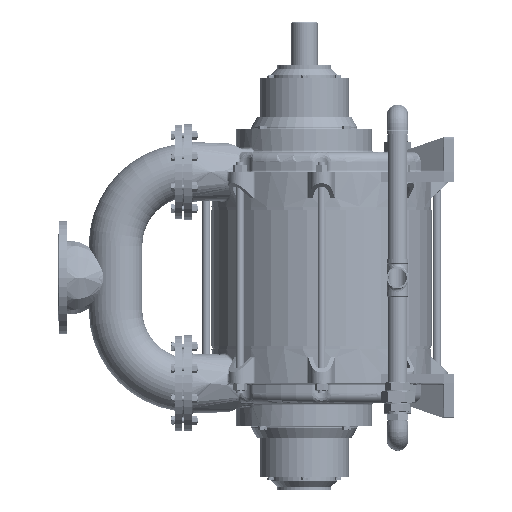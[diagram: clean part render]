
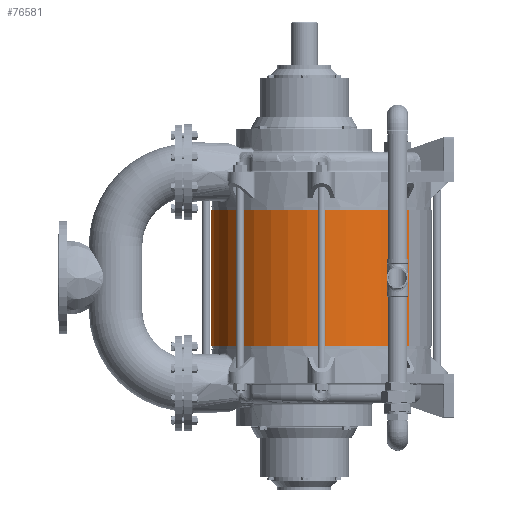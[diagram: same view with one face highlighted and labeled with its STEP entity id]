
A CAD part, left-side view. The second image highlights one B-rep face of the part: STEP entity #76581.
In plain terms, the highlighted cylindrical face has radius 334 mm (diameter 668 mm), a partial arc.
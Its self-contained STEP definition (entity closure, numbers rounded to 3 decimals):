
#12388 = CARTESIAN_POINT ( 'NONE',  ( 0., 0., -9. ) ) ;
#15015 = VERTEX_POINT ( 'NONE', #44050 ) ;
#16204 = CARTESIAN_POINT ( 'NONE',  ( -202.961, -265.26, -9. ) ) ;
#25985 = CARTESIAN_POINT ( 'NONE',  ( 0., 0., -9. ) ) ;
#30681 = AXIS2_PLACEMENT_3D ( 'NONE', #80423, #34950, #147519 ) ;
#31249 = CARTESIAN_POINT ( 'NONE',  ( 202.961, 265.26, -420.4 ) ) ;
#33611 = ORIENTED_EDGE ( 'NONE', *, *, #41996, .T. ) ;
#34950 = DIRECTION ( 'NONE',  ( 0., 0., 1. ) ) ;
#37332 = CIRCLE ( 'NONE', #30681, 334. ) ;
#40283 = VERTEX_POINT ( 'NONE', #47139 ) ;
#40666 = ORIENTED_EDGE ( 'NONE', *, *, #83902, .T. ) ;
#41996 = EDGE_CURVE ( 'NONE', #128228, #15015, #37332, .T. ) ;
#44050 = CARTESIAN_POINT ( 'NONE',  ( -202.961, -265.26, -420.4 ) ) ;
#47139 = CARTESIAN_POINT ( 'NONE',  ( 202.961, 265.26, -9. ) ) ;
#50109 = EDGE_CURVE ( 'NONE', #40283, #60297, #131245, .T. ) ;
#60297 = VERTEX_POINT ( 'NONE', #81256 ) ;
#70131 = DIRECTION ( 'NONE',  ( 0., 0., -1. ) ) ;
#71336 = DIRECTION ( 'NONE',  ( 0., 0., 1. ) ) ;
#72476 = DIRECTION ( 'NONE',  ( -0.608, -0.794, 0. ) ) ;
#72483 = AXIS2_PLACEMENT_3D ( 'NONE', #25985, #104534, #72476 ) ;
#73782 = VECTOR ( 'NONE', #70131, 1000. ) ;
#76581 = ADVANCED_FACE ( 'NONE', ( #183022 ), #152044, .T. ) ;
#76676 = VECTOR ( 'NONE', #172212, 1000. ) ;
#80423 = CARTESIAN_POINT ( 'NONE',  ( 0., 0., -420.4 ) ) ;
#81256 = CARTESIAN_POINT ( 'NONE',  ( -202.961, -265.26, -9. ) ) ;
#83902 = EDGE_CURVE ( 'NONE', #40283, #128228, #161118, .T. ) ;
#104534 = DIRECTION ( 'NONE',  ( 0., 0., -1. ) ) ;
#124749 = LINE ( 'NONE', #16204, #76676 ) ;
#128228 = VERTEX_POINT ( 'NONE', #31249 ) ;
#131245 = CIRCLE ( 'NONE', #150982, 334. ) ;
#133912 = EDGE_CURVE ( 'NONE', #60297, #15015, #124749, .T. ) ;
#134439 = DIRECTION ( 'NONE',  ( 0.608, 0.794, 0. ) ) ;
#147519 = DIRECTION ( 'NONE',  ( 0.608, 0.794, 0. ) ) ;
#148692 = CARTESIAN_POINT ( 'NONE',  ( 202.961, 265.26, -9. ) ) ;
#150982 = AXIS2_PLACEMENT_3D ( 'NONE', #12388, #71336, #134439 ) ;
#152044 = CYLINDRICAL_SURFACE ( 'NONE', #72483, 334. ) ;
#161118 = LINE ( 'NONE', #148692, #73782 ) ;
#172212 = DIRECTION ( 'NONE',  ( 0., 0., -1. ) ) ;
#183022 = FACE_OUTER_BOUND ( 'NONE', #184547, .T. ) ;
#184547 = EDGE_LOOP ( 'NONE', ( #197446, #40666, #33611, #196316 ) ) ;
#196316 = ORIENTED_EDGE ( 'NONE', *, *, #133912, .F. ) ;
#197446 = ORIENTED_EDGE ( 'NONE', *, *, #50109, .F. ) ;
